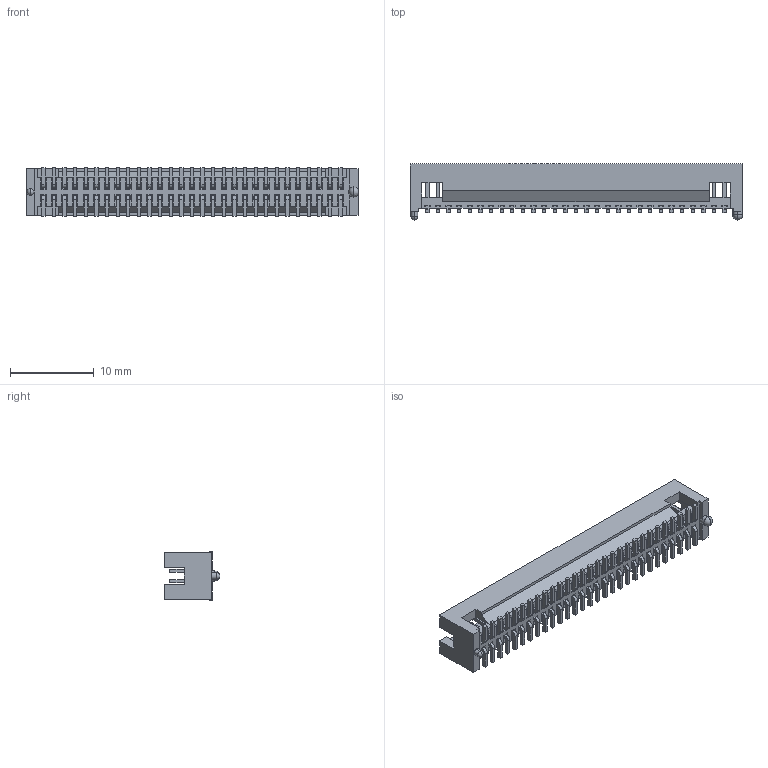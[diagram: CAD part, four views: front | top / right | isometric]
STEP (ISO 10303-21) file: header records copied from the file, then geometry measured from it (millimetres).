
FILE_DESCRIPTION (( 'STEP AP214' ), '1' );
FILE_NAME ('HC-JN127-2-29-S-5.7-XX (潠籟1.27 邧齬 泂え-HCTL).STEP', '2024-12-17T02:57:16', ( '' ), ( '' ), 'SwSTEP 2.0', 'SolidWorks 2022', '' );
FILE_SCHEMA (( 'AUTOMOTIVE_DESIGN' ));
Length unit declared in the file: millimetre
Products named in the file (1): HC-JN127-2-29-S-5.7-XX (潠籟1.27 邧齬 泂え-HCTL)
Bounding box: 39.73 x 6.7 x 5.8 mm (x, y, z)
Volume: 580.1 mm3; surface area: 1848.7 mm2
Topology: 1 solids, 1 shells, 1330 faces, 3429 edges, 2206 vertices
Faces by surface type: plane 1205, cylinder 121, sphere 4
Entity records: 45222 total; most frequent: CARTESIAN_POINT 6956, ORIENTED_EDGE 6844, DIRECTION 6332, EDGE_CURVE 3422, LINE 3174, VECTOR 3174, VERTEX_POINT 2203, AXIS2_PLACEMENT_3D 1579
